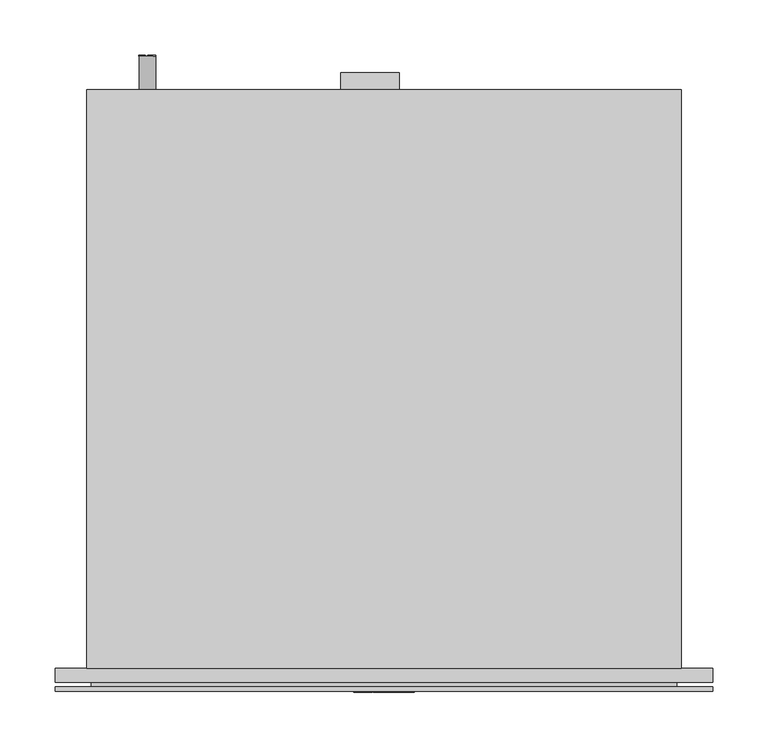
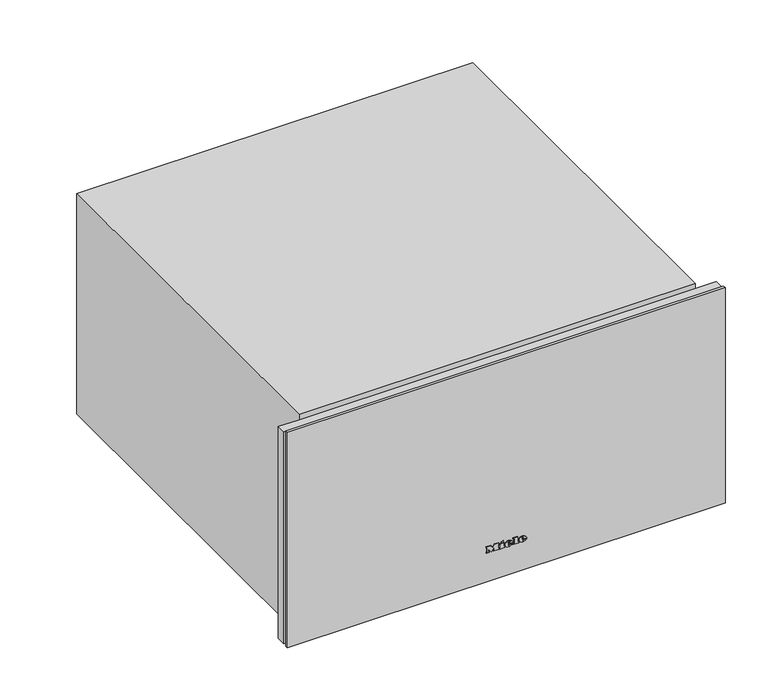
"""IFC4 building model written with IfcOpenShell, lengths in millimetres: proxy geometry, 11286120_CH_ESW7030_GRGR : 30703030_CH_11286120_ESW7030_GRGR."""

from ifc_helpers import new_model, si_unit, point, frame, frame_2d, origin, place, context, project, spatial, polyline, circle_curve, ellipse_curve, trimmed, segment, composite_curve, outline, extrude, faceted_brep, source, transform, mapped, element, save
from ifc_brep_helpers import plane_surface, cylinder_surface, revolved_surface, extruded_surface, advanced_brep


def specialty_equipment_0d2ee089(model_context):
    return source(origin(), model_context, "Body", "SolidModel", [
        advanced_brep(
        [(21.28, -22.0, 48.133), (21.28, -22.0, 49.042), (27.301, -22.0, 49.042), (16.825, -22.0, 49.042), (19.3, -22.0, 46.0), (27.148, -22.0, 48.133), (24.43, -22.0, 48.133), (22.288, -22.0, 47.125), (21.28, -22.0, 50.194), (21.28, -22.0, 51.175), (22.819, -22.0, 51.175), (22.819, -22.0, 50.194), (21.28, -21.0, 48.133), (22.288, -21.0, 47.125), (24.43, -21.0, 48.133), (27.148, -21.0, 48.133), (19.3, -21.0, 46.0), (16.825, -21.0, 49.042), (27.301, -21.0, 49.042), (21.28, -21.0, 49.042), (21.28, -21.0, 50.194), (22.819, -21.0, 50.194), (22.819, -21.0, 51.175), (21.28, -21.0, 51.175)],
        [
            (0, 1),
            (1, 2),
            (2, 3, ellipse_curve(frame((22.063, -22.0, 49.042), z_axis=(0.0, -1.0, 0.0), x_axis=(-1.0, 0.0, 0.0)), 5.238, 4.329)),
            (3, 4, circle_curve(frame((20.3080491, -22.0, 49.348), z_axis=(0.0, -1.0, 0.0), x_axis=(0.0, 0.0, -1.0)), 3.4964649)),
            (4, 5, circle_curve(frame((21.9581428, -22.0, 51.724), z_axis=(0.0, -1.0, 0.0), x_axis=(0.0, 0.0, -1.0)), 6.3110933)),
            (5, 6),
            (6, 7, circle_curve(frame((22.7279412, -22.0, 48.97), z_axis=(0.0, 1.0, 0.0), x_axis=(0.0, 0.0, -1.0)), 1.896727)),
            (7, 0, circle_curve(frame((22.288, -22.0, 48.133), z_axis=(0.0, 1.0, 0.0), x_axis=(0.0, 0.0, -1.0)), 1.008)),
            (8, 9),
            (9, 10, circle_curve(frame((22.0495, -22.0, 51.175), z_axis=(0.0, 1.0, 0.0), x_axis=(0.0, 0.0, -1.0)), 0.7695)),
            (10, 11),
            (11, 8),
            (12, 13, circle_curve(frame((22.288, -21.0, 48.133), z_axis=(0.0, -1.0, 0.0), x_axis=(0.0, 0.0, -1.0)), 1.008)),
            (13, 14, circle_curve(frame((22.7279412, -21.0, 48.97), z_axis=(0.0, -1.0, 0.0), x_axis=(0.0, 0.0, -1.0)), 1.896727)),
            (14, 15),
            (15, 16, circle_curve(frame((21.9581428, -21.0, 51.724), z_axis=(0.0, 1.0, 0.0), x_axis=(0.0, 0.0, -1.0)), 6.3110933)),
            (16, 17, circle_curve(frame((20.3080491, -21.0, 49.348), z_axis=(0.0, 1.0, 0.0), x_axis=(0.0, 0.0, -1.0)), 3.4964649)),
            (17, 18, ellipse_curve(frame((22.063, -21.0, 49.042), z_axis=(0.0, 1.0, 0.0), x_axis=(-1.0, 0.0, 0.0)), 5.238, 4.329)),
            (18, 19),
            (19, 12),
            (20, 21),
            (21, 22),
            (22, 23, circle_curve(frame((22.0495, -21.0, 51.175), z_axis=(0.0, -1.0, 0.0), x_axis=(0.0, 0.0, -1.0)), 0.7695)),
            (23, 20),
            (0, 12),
            (19, 1),
            (18, 2),
            (5, 15),
            (14, 6),
            (17, 3),
            (13, 7),
            (16, 4),
            (8, 20),
            (23, 9),
            (22, 10),
            (21, 11),
        ],
        [
            plane_surface(frame((21.28, -22.0, 49.042), z_axis=(0.0, -1.0, 0.0), x_axis=(0.0, 0.0, 1.0))),
            plane_surface(frame((21.28, -21.0, 49.042), z_axis=(0.0, 1.0, 0.0), x_axis=(0.0, 0.0, -1.0))),
            plane_surface(frame((21.28, -22.0, 48.133), z_axis=(1.0, 0.0, 0.0), x_axis=(0.0, 1.0, 0.0))),
            plane_surface(frame((21.28, -22.0, 49.042), z_axis=(0.0, 0.0, -1.0), x_axis=(0.0, 1.0, 0.0))),
            plane_surface(frame((27.148, -22.0, 48.133), z_axis=(0.0, 0.0, 1.0), x_axis=(0.0, 1.0, 0.0))),
            extruded_surface(trimmed(ellipse_curve(frame((22.063, -20.0, 49.042), z_axis=(0.0, -1.0, 0.0), x_axis=(-1.0, 0.0, 0.0)), 5.238, 4.329), [point((27.301, -20.0, 49.042))], [point((16.825, -20.0, 49.042))], True, "CARTESIAN"), (0.0, -1.0, 0.0), 1.0),
            revolved_surface(polyline([(22.7279412, -21.0, 47.073273), (22.7279412, -22.0, 47.073273)]), (22.7279412, -21.0, 48.97), (0.0, 1.0, 0.0)),
            revolved_surface(polyline([(22.288, -21.0, 47.125), (22.288, -22.0, 47.125)]), (22.288, -21.0, 48.133), (0.0, 1.0, 0.0)),
            cylinder_surface(frame((20.3080491, -21.0, 49.348), z_axis=(0.0, -1.0, 0.0), x_axis=(0.0, 0.0, -1.0)), 3.4964649),
            cylinder_surface(frame((21.9581428, -21.0, 51.724), z_axis=(0.0, -1.0, 0.0), x_axis=(0.0, 0.0, -1.0)), 6.3110933),
            plane_surface(frame((21.28, -22.0, 50.194), z_axis=(1.0, 0.0, 0.0), x_axis=(0.0, 1.0, 0.0))),
            revolved_surface(polyline([(22.0495, -21.0, 50.405499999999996), (22.0495, -22.0, 50.405499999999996)]), (22.0495, -21.0, 51.175), (0.0, 1.0, 0.0)),
            plane_surface(frame((22.819, -22.0, 51.175), z_axis=(-1.0, 0.0, 0.0), x_axis=(0.0, 1.0, 0.0))),
            plane_surface(frame((22.819, -22.0, 50.194), z_axis=(0.0, 0.0, 1.0), x_axis=(0.0, 1.0, 0.0))),
        ],
        [
            (0, [[1, 2, 3, 4, 5, 6, 7, 8], [9, 10, 11, 12]]),
            (1, [[13, 14, 15, 16, 17, 18, 19, 20], [21, 22, 23, 24]]),
            (2, [[-1, 25, -20, 26]]),
            (3, [[-2, -26, -19, 27]]),
            (4, [[-6, 28, -15, 29]]),
            (5, [[-3, -27, -18, 30]]),
            (6, [[-7, -29, -14, 31]]),
            (7, [[-8, -31, -13, -25]]),
            (8, [[-4, -30, -17, 32]]),
            (9, [[-5, -32, -16, -28]]),
            (10, [[-9, 33, -24, 34]]),
            (11, [[-10, -34, -23, 35]]),
            (12, [[-11, -35, -22, 36]]),
            (13, [[-12, -36, -21, -33]]),
        ],
    ),
        advanced_brep(
        [(2.497, -22.0, 48.133), (2.497, -22.0, 49.042), (8.518, -22.0, 49.042), (-1.958, -22.0, 49.042), (0.517, -22.0, 46.0), (8.365, -22.0, 48.133), (5.647, -22.0, 48.133), (3.505, -22.0, 47.125), (2.497, -22.0, 50.194), (2.497, -22.0, 51.175), (4.036, -22.0, 51.175), (4.036, -22.0, 50.194), (2.497, -21.0, 48.133), (3.505, -21.0, 47.125), (5.647, -21.0, 48.133), (8.365, -21.0, 48.133), (0.517, -21.0, 46.0), (-1.958, -21.0, 49.042), (8.518, -21.0, 49.042), (2.497, -21.0, 49.042), (2.497, -21.0, 50.194), (4.036, -21.0, 50.194), (4.036, -21.0, 51.175), (2.497, -21.0, 51.175)],
        [
            (0, 1),
            (1, 2),
            (2, 3, ellipse_curve(frame((3.28, -22.0, 49.042), z_axis=(0.0, -1.0, 0.0), x_axis=(-1.0, 0.0, 0.0)), 5.238, 4.329)),
            (3, 4, circle_curve(frame((1.5250491, -22.0, 49.348), z_axis=(0.0, -1.0, 0.0), x_axis=(0.0, 0.0, -1.0)), 3.4964649)),
            (4, 5, circle_curve(frame((3.1751428, -22.0, 51.724), z_axis=(0.0, -1.0, 0.0), x_axis=(0.0, 0.0, -1.0)), 6.3110933)),
            (5, 6),
            (6, 7, circle_curve(frame((3.9449412, -22.0, 48.97), z_axis=(0.0, 1.0, 0.0), x_axis=(0.0, 0.0, -1.0)), 1.896727)),
            (7, 0, circle_curve(frame((3.505, -22.0, 48.133), z_axis=(0.0, 1.0, 0.0), x_axis=(0.0, 0.0, -1.0)), 1.008)),
            (8, 9),
            (9, 10, circle_curve(frame((3.2665, -22.0, 51.175), z_axis=(0.0, 1.0, 0.0), x_axis=(0.0, 0.0, -1.0)), 0.7695)),
            (10, 11),
            (11, 8),
            (12, 13, circle_curve(frame((3.505, -21.0, 48.133), z_axis=(0.0, -1.0, 0.0), x_axis=(0.0, 0.0, -1.0)), 1.008)),
            (13, 14, circle_curve(frame((3.9449412, -21.0, 48.97), z_axis=(0.0, -1.0, 0.0), x_axis=(0.0, 0.0, -1.0)), 1.896727)),
            (14, 15),
            (15, 16, circle_curve(frame((3.1751428, -21.0, 51.724), z_axis=(0.0, 1.0, 0.0), x_axis=(0.0, 0.0, -1.0)), 6.3110933)),
            (16, 17, circle_curve(frame((1.5250491, -21.0, 49.348), z_axis=(0.0, 1.0, 0.0), x_axis=(0.0, 0.0, -1.0)), 3.4964649)),
            (17, 18, ellipse_curve(frame((3.28, -21.0, 49.042), z_axis=(0.0, 1.0, 0.0), x_axis=(-1.0, 0.0, 0.0)), 5.238, 4.329)),
            (18, 19),
            (19, 12),
            (20, 21),
            (21, 22),
            (22, 23, circle_curve(frame((3.2665, -21.0, 51.175), z_axis=(0.0, -1.0, 0.0), x_axis=(0.0, 0.0, -1.0)), 0.7695)),
            (23, 20),
            (0, 12),
            (19, 1),
            (18, 2),
            (5, 15),
            (14, 6),
            (17, 3),
            (13, 7),
            (16, 4),
            (8, 20),
            (23, 9),
            (22, 10),
            (21, 11),
        ],
        [
            plane_surface(frame((2.497, -22.0, 49.042), z_axis=(0.0, -1.0, 0.0), x_axis=(0.0, 0.0, 1.0))),
            plane_surface(frame((2.497, -21.0, 49.042), z_axis=(0.0, 1.0, 0.0), x_axis=(0.0, 0.0, -1.0))),
            plane_surface(frame((2.497, -22.0, 48.133), z_axis=(1.0, 0.0, 0.0), x_axis=(0.0, 1.0, 0.0))),
            plane_surface(frame((2.497, -22.0, 49.042), z_axis=(0.0, 0.0, -1.0), x_axis=(0.0, 1.0, 0.0))),
            plane_surface(frame((8.365, -22.0, 48.133), z_axis=(0.0, 0.0, 1.0), x_axis=(0.0, 1.0, 0.0))),
            extruded_surface(trimmed(ellipse_curve(frame((3.28, -20.0, 49.042), z_axis=(0.0, -1.0, 0.0), x_axis=(-1.0, 0.0, 0.0)), 5.238, 4.329), [point((8.518, -20.0, 49.042))], [point((-1.958, -20.0, 49.042))], True, "CARTESIAN"), (0.0, -1.0, 0.0), 1.0),
            revolved_surface(polyline([(3.9449412, -21.0, 47.073273), (3.9449412, -22.0, 47.073273)]), (3.9449412, -21.0, 48.97), (0.0, 1.0, 0.0)),
            revolved_surface(polyline([(3.505, -21.0, 47.125), (3.505, -22.0, 47.125)]), (3.505, -21.0, 48.133), (0.0, 1.0, 0.0)),
            cylinder_surface(frame((1.5250491, -21.0, 49.348), z_axis=(0.0, -1.0, 0.0), x_axis=(0.0, 0.0, -1.0)), 3.4964649),
            cylinder_surface(frame((3.1751428, -21.0, 51.724), z_axis=(0.0, -1.0, 0.0), x_axis=(0.0, 0.0, -1.0)), 6.3110933),
            plane_surface(frame((2.497, -22.0, 50.194), z_axis=(1.0, 0.0, 0.0), x_axis=(0.0, 1.0, 0.0))),
            revolved_surface(polyline([(3.2665, -21.0, 50.405499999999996), (3.2665, -22.0, 50.405499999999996)]), (3.2665, -21.0, 51.175), (0.0, 1.0, 0.0)),
            plane_surface(frame((4.036, -22.0, 51.175), z_axis=(-1.0, 0.0, 0.0), x_axis=(0.0, 1.0, 0.0))),
            plane_surface(frame((4.036, -22.0, 50.194), z_axis=(0.0, 0.0, 1.0), x_axis=(0.0, 1.0, 0.0))),
        ],
        [
            (0, [[1, 2, 3, 4, 5, 6, 7, 8], [9, 10, 11, 12]]),
            (1, [[13, 14, 15, 16, 17, 18, 19, 20], [21, 22, 23, 24]]),
            (2, [[-1, 25, -20, 26]]),
            (3, [[-2, -26, -19, 27]]),
            (4, [[-6, 28, -15, 29]]),
            (5, [[-3, -27, -18, 30]]),
            (6, [[-7, -29, -14, 31]]),
            (7, [[-8, -31, -13, -25]]),
            (8, [[-4, -30, -17, 32]]),
            (9, [[-5, -32, -16, -28]]),
            (10, [[-9, 33, -24, 34]]),
            (11, [[-10, -34, -23, 35]]),
            (12, [[-11, -35, -22, 36]]),
            (13, [[-12, -36, -21, -33]]),
        ],
    ),
        extrude(outline(polyline([(54.469, -7.34), (53.011, -6.656), (54.433, -3.605), (55.891, -4.28), (54.469, -7.34)])), frame((0.0, -22.0, 0.0), z_axis=(0.0, 1.0, 0.0), x_axis=(0.0, 0.0, 1.0)), (0.0, 0.0, 1.0), 1.0),
        extrude(outline(polyline([(52.813, -9.563), (51.202, -9.563), (51.202, -8.492), (47.512, -8.492), (47.512, -9.563), (46.0, -9.563), (46.0, -2.462), (47.512, -2.462), (47.512, -3.506), (52.813, -3.506), (52.813, -9.563)])), frame((0.0, -22.0, 0.0), z_axis=(0.0, 1.0, 0.0), x_axis=(0.0, 0.0, 1.0)), (0.0, 0.0, 1.0), 1.0),
        extrude(outline(polyline([(53.533, 9.022), (53.533, 10.102), (47.512, 10.102), (47.512, 9.022), (46.0, 9.022), (46.0, 16.321), (47.512, 16.321), (47.512, 15.214), (55.0, 15.214), (55.0, 9.022), (53.533, 9.022)])), frame((0.0, -22.0, 0.0), z_axis=(0.0, 1.0, 0.0), x_axis=(0.0, 0.0, 1.0)), (0.0, 0.0, 1.0), 1.0),
        extrude(outline(polyline([(53.533, -27.5), (53.533, -26.411), (47.512, -26.411), (47.512, -27.5), (46.0, -27.5), (46.0, -23.54), (47.512, -23.54), (47.512, -24.62), (51.3341247, -24.62), (46.0, -20.597), (51.4402223, -16.556), (47.512, -16.556), (47.512, -17.663), (46.0, -17.663), (46.0, -10.481), (47.512, -10.481), (47.512, -11.624), (53.533, -11.624), (53.533, -10.481), (55.0, -10.481), (55.0, -15.962), (51.625, -18.59), (55.0, -21.227), (55.0, -27.5), (53.533, -27.5)])), frame((0.0, -22.0, 0.0), z_axis=(0.0, 1.0, 0.0), x_axis=(0.0, 0.0, 1.0)), (0.0, 0.0, 1.0), 1.0),
        extrude(outline(polyline([(-297.5, -17.0), (297.5, -17.0), (297.5, -21.0), (-297.5, -21.0), (-297.5, -17.0)])), frame((0.0, 0.0, 4.0), z_axis=(0.0, 0.0, 1.0), x_axis=(1.0, 0.0, 0.0)), (0.0, 0.0, 1.0), 310.0),
        extrude(outline(polyline([(-265.0, -13.0), (265.0, -13.0), (265.0, -17.0), (-265.0, -17.0), (-265.0, -13.0)])), frame((0.0, 0.0, 34.0), z_axis=(0.0, 0.0, 1.0), x_axis=(1.0, 0.0, 0.0)), (0.0, 0.0, 1.0), 273.0),
        extrude(outline(polyline([(-13.0, 38.0), (-13.0, 302.0), (19.0, 302.0), (19.0, 261.0), (4.0, 261.0), (4.0, 38.0), (-13.0, 38.0)])), frame((-261.0, 0.0, 0.0), z_axis=(1.0, 0.0, 0.0), x_axis=(0.0, 1.0, 0.0)), (0.0, 0.0, 1.0), 522.0),
        extrude(outline(polyline([(52.045335, -206.6203116), (52.045335, -213.8439827), (50.7898265, -213.8439827), (50.7898265, -207.876825), (47.8076572, -207.876825), (47.8076572, -213.5281281), (46.5519876, -213.5281281), (46.5519876, -207.876825), (43.2564531, -207.876825), (43.2564531, -213.8439827), (42.0, -213.8439827), (42.0, -206.6203116), (52.045335, -206.6203116)])), frame((0.0, 554.0, 0.0), z_axis=(0.0, 1.0, 0.0), x_axis=(0.0, 0.0, 1.0)), (0.0, 0.0, 1.0), 1.0),
        extrude(outline(polyline([(52.0461611, -217.1431874), (43.255243, -217.1431874), (43.255243, -222.1617362), (41.9997538, -222.1617362), (41.9997538, -217.1431874), (41.9997538, -215.8823011), (52.0461611, -215.8823011), (52.0461611, -217.1431874)])), frame((0.0, 554.0, 0.0), z_axis=(0.0, 1.0, 0.0), x_axis=(0.0, 0.0, 1.0)), (0.0, 0.0, 1.0), 1.0),
        extrude(outline(composite_curve([segment(trimmed(circle_curve(frame_2d((47.0, -214.0)), 7.5), [point((47.0, -206.5))], [point((47.0, -221.5))], False, "CARTESIAN"), True, "CONTINUOUS"), segment(trimmed(circle_curve(frame_2d((47.0, -214.0)), 7.5), [point((47.0, -221.5))], [point((47.0, -206.5))], False, "CARTESIAN"), True, "CONTINUOUS")], self_intersect=False)), frame((0.0, 524.0, 0.0), z_axis=(0.0, 1.0, 0.0), x_axis=(0.0, 0.0, 1.0)), (0.0, 0.0, 1.0), 30.0),
        faceted_brep([(269.0, 524.0, 317.0), (269.0, 524.0, 0.0), (-269.0, 524.0, 0.0), (-269.0, 524.0, 317.0), (269.0, 0.0, 317.0), (269.0, 0.0, 309.5), (269.0, 0.0, 5.5), (269.0, 0.0, 0.0), (-269.0, 0.0, 0.0), (-269.0, 0.0, 5.5), (-269.0, 0.0, 309.5), (-269.0, 0.0, 317.0), (-297.5, 0.0, 309.5), (-297.5, -13.0, 309.5), (297.5, -13.0, 309.5), (297.5, 0.0, 309.5), (-267.0, 0.0, 5.5), (-267.0, -13.0, 5.5), (-297.5, -13.0, 5.5), (-297.5, 0.0, 5.5), (267.0, 0.0, 5.5), (297.5, 0.0, 5.5), (297.5, -13.0, 5.5), (267.0, -13.0, 5.5), (-267.0, -13.0, 307.0), (267.0, -13.0, 307.0), (267.0, 522.0, 307.0), (-267.0, 522.0, 307.0), (-267.0, 522.0, 28.0), (267.0, 522.0, 28.0), (-267.0, 0.0, 28.0), (267.0, 0.0, 28.0)], [[[0, 1, 2, 3]], [[1, 0, 4, 5, 6, 7]], [[3, 2, 8, 9, 10, 11]], [[5, 10, 12, 13, 14, 15]], [[10, 5, 4, 11]], [[9, 16, 17, 18, 19]], [[20, 6, 21, 22, 23]], [[12, 10, 9, 19]], [[5, 15, 21, 6]], [[14, 13, 18, 17, 24, 25, 23, 22]], [[15, 14, 22, 21]], [[13, 12, 19, 18]], [[26, 27, 28, 29]], [[29, 28, 30, 31]], [[27, 26, 25, 24]], [[30, 16, 9, 8, 7, 6, 20, 31]], [[2, 1, 7, 8]], [[0, 3, 11, 4]], [[17, 16, 30, 28, 27, 24]], [[25, 26, 29, 31, 20, 23]]]),
        extrude(outline(polyline([(-39.0, 539.0), (14.0, 539.0), (14.0, 524.0), (-39.0, 524.0), (-39.0, 539.0)])), frame((0.0, 0.0, 31.0), z_axis=(0.0, 0.0, 1.0), x_axis=(1.0, 0.0, 0.0)), (0.0, 0.0, 1.0), 29.0),
    ])


if __name__ == "__main__":
    model = new_model("IFC4")
    model_context = context("Model", 3, world=origin())
    ifc_project = project(units=[si_unit("LENGTHUNIT", "METRE", prefix="MILLI")], contexts=[model_context])
    site = spatial("IfcSite", under=ifc_project)
    building = spatial("IfcBuilding", under=site)
    placement = place(None, origin())
    specialty_equipment_shape = specialty_equipment_0d2ee089(model_context)
    element("IfcBuildingElementProxy", 1, Name="11286120_CH_ESW7030_GRGR : 30703030_CH_11286120_ESW7030_GRGR", ObjectType="11286120_CH_ESW7030_GRGR : 30703030_CH_11286120_ESW7030_GRGR", at=placement, inside=building, context=model_context, shape_type="MappedRepresentation", body=[
        mapped(specialty_equipment_shape, transform((0.0, 0.0, 0.0), x_axis=(1.0, 0.0, 0.0), y_axis=(0.0, 1.0, 0.0), z_axis=(0.0, 0.0, 1.0))),
    ])
    save(model, "model.ifc")
